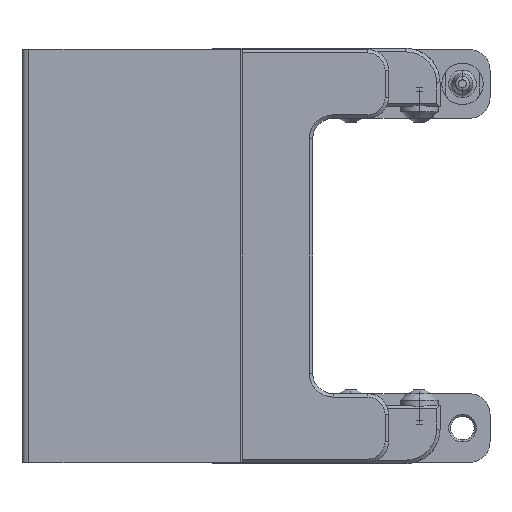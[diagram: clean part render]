
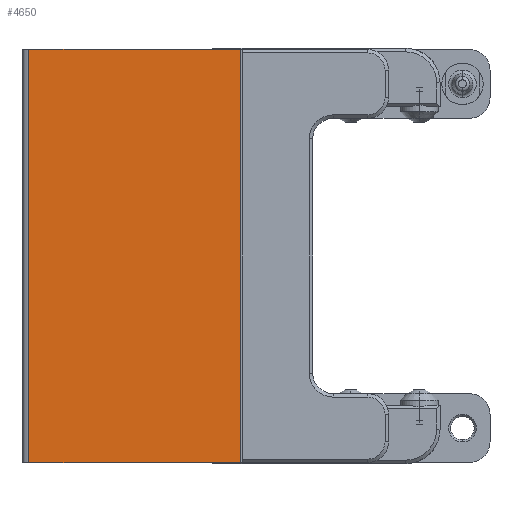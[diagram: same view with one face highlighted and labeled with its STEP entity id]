
A CAD part, front view. The second image highlights one B-rep face of the part: STEP entity #4650.
In plain terms, the highlighted planar face has unit normal (0, -1, 0).
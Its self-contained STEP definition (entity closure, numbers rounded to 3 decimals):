
#72 = VECTOR ( 'NONE', #4457, 1000. ) ;
#219 = EDGE_CURVE ( 'NONE', #9693, #2223, #2016, .T. ) ;
#263 = CARTESIAN_POINT ( 'NONE',  ( -82.451, -17.5, -60. ) ) ;
#619 = CARTESIAN_POINT ( 'NONE',  ( -20.951, -17.5, -60. ) ) ;
#644 = DIRECTION ( 'NONE',  ( 0., 0., 1. ) ) ;
#911 = DIRECTION ( 'NONE',  ( -1., 0., 0. ) ) ;
#1013 = CARTESIAN_POINT ( 'NONE',  ( -20.951, -17.5, -60. ) ) ;
#1817 = ORIENTED_EDGE ( 'NONE', *, *, #9716, .T. ) ;
#2016 = LINE ( 'NONE', #10666, #2785 ) ;
#2223 = VERTEX_POINT ( 'NONE', #9794 ) ;
#2267 = DIRECTION ( 'NONE',  ( 0., 0., 1. ) ) ;
#2370 = VECTOR ( 'NONE', #644, 1000. ) ;
#2785 = VECTOR ( 'NONE', #2267, 1000. ) ;
#2794 = EDGE_CURVE ( 'NONE', #4829, #2223, #8329, .T. ) ;
#3244 = CARTESIAN_POINT ( 'NONE',  ( -20.951, -17.5, 60. ) ) ;
#3983 = ORIENTED_EDGE ( 'NONE', *, *, #219, .F. ) ;
#4457 = DIRECTION ( 'NONE',  ( -1., 0., 0. ) ) ;
#4650 = ADVANCED_FACE ( 'NONE', ( #8441 ), #9751, .F. ) ;
#4829 = VERTEX_POINT ( 'NONE', #5094 ) ;
#4945 = ORIENTED_EDGE ( 'NONE', *, *, #7835, .F. ) ;
#5094 = CARTESIAN_POINT ( 'NONE',  ( -20.951, -17.5, 60. ) ) ;
#5322 = LINE ( 'NONE', #11290, #11602 ) ;
#6500 = VERTEX_POINT ( 'NONE', #1013 ) ;
#6832 = AXIS2_PLACEMENT_3D ( 'NONE', #9636, #9894, #9927 ) ;
#7835 = EDGE_CURVE ( 'NONE', #6500, #9693, #5322, .T. ) ;
#8329 = LINE ( 'NONE', #3244, #72 ) ;
#8441 = FACE_OUTER_BOUND ( 'NONE', #11603, .T. ) ;
#8519 = LINE ( 'NONE', #619, #2370 ) ;
#9636 = CARTESIAN_POINT ( 'NONE',  ( -20.951, -17.5, -60. ) ) ;
#9693 = VERTEX_POINT ( 'NONE', #263 ) ;
#9716 = EDGE_CURVE ( 'NONE', #6500, #4829, #8519, .T. ) ;
#9751 = PLANE ( 'NONE',  #6832 ) ;
#9794 = CARTESIAN_POINT ( 'NONE',  ( -82.451, -17.5, 60. ) ) ;
#9894 = DIRECTION ( 'NONE',  ( 0., 1., 0. ) ) ;
#9927 = DIRECTION ( 'NONE',  ( 1., 0., 0. ) ) ;
#10666 = CARTESIAN_POINT ( 'NONE',  ( -82.451, -17.5, -60. ) ) ;
#10960 = ORIENTED_EDGE ( 'NONE', *, *, #2794, .T. ) ;
#11290 = CARTESIAN_POINT ( 'NONE',  ( -20.951, -17.5, -60. ) ) ;
#11602 = VECTOR ( 'NONE', #911, 1000. ) ;
#11603 = EDGE_LOOP ( 'NONE', ( #10960, #3983, #4945, #1817 ) ) ;
